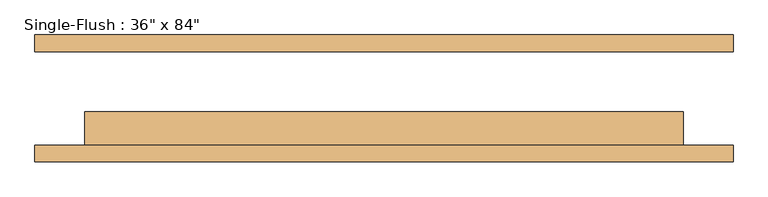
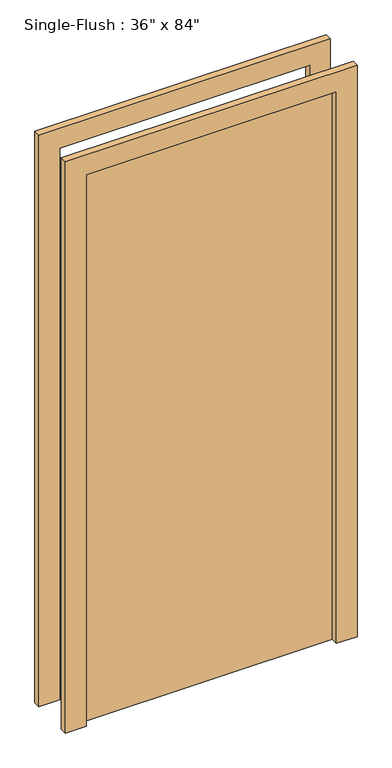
"""IFC4 building model written with IfcOpenShell, lengths in millimetres: door geometry."""

from ifc_helpers import new_model, si_unit, frame, origin, origin_with_axes, place, context, project, spatial, polyline, outline, extrude, source, transform, mapped, element, save


def door_51669b0d(model_context):
    return source(origin(), model_context, "Body", "SweptSolid", [
        extrude(outline(polyline([(2209.8, -533.4), (0.0, -533.4), (0.0, -457.2), (2133.6, -457.2), (2133.6, 457.2), (0.0, 457.2), (0.0, 533.4), (2209.8, 533.4), (2209.8, -533.4)])), frame((0.0, -96.8375, 0.0), z_axis=(0.0, 1.0, 0.0), x_axis=(0.0, 0.0, 1.0)), (0.0, 0.0, 1.0), 25.4),
        extrude(outline(polyline([(2209.8, 533.4), (2209.8, -533.4), (0.0, -533.4), (0.0, -457.2), (2133.6, -457.2), (2133.6, 457.2), (0.0, 457.2), (0.0, 533.4), (2209.8, 533.4)])), frame((0.0, 71.4375, 0.0), z_axis=(0.0, 1.0, 0.0), x_axis=(0.0, 0.0, 1.0)), (0.0, 0.0, 1.0), 25.4),
        extrude(outline(polyline([(457.2, -20.6375), (457.2, -71.4375), (-457.2, -71.4375), (-457.2, -20.6375), (457.2, -20.6375)])), origin_with_axes(), (0.0, 0.0, 1.0), 2133.6),
    ])


if __name__ == "__main__":
    model = new_model("IFC4")
    model_context = context("Model", 3, world=origin())
    ifc_project = project(units=[si_unit("LENGTHUNIT", "METRE", prefix="MILLI")], contexts=[model_context])
    site = spatial("IfcSite", under=ifc_project)
    building = spatial("IfcBuilding", under=site)
    placement = place(None, origin())
    door_shape = door_51669b0d(model_context)
    element("IfcDoor", 1, ObjectType="Single-Flush : 36\" x 84\"", at=placement, inside=building, context=model_context, shape_type="MappedRepresentation", body=[
        mapped(door_shape, transform((0.0, 0.0, 0.0), x_axis=(1.0, 0.0, 0.0), y_axis=(0.0, 1.0, 0.0), z_axis=(0.0, 0.0, 1.0))),
    ])
    save(model, "model.ifc")
